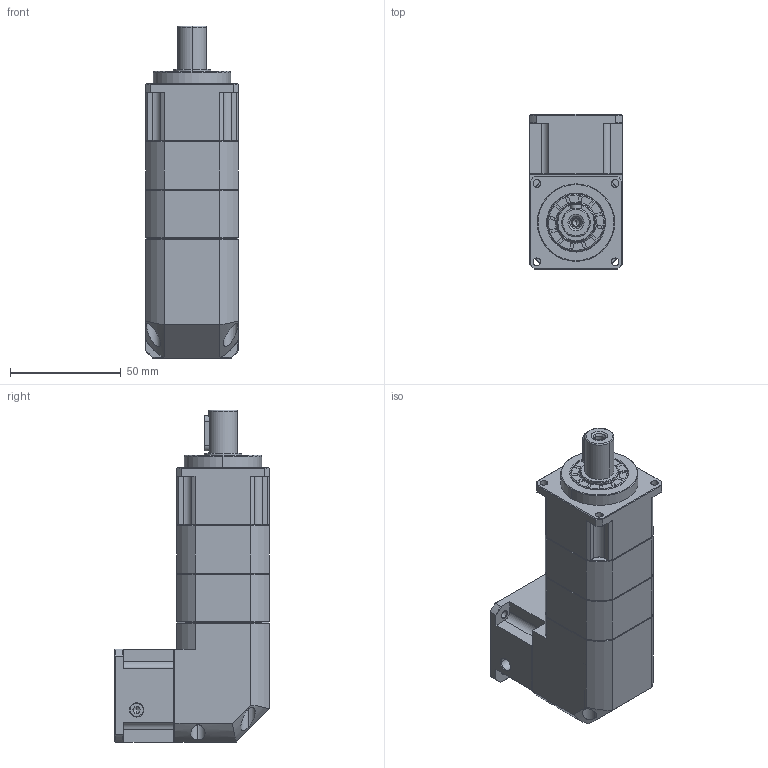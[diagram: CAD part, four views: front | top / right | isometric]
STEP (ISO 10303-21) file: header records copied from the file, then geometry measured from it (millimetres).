
FILE_DESCRIPTION (( 'STEP AP214' ), '1' );
FILE_NAME ('ZPBR042-D13-L3-P1-5-22-31X31-朴3.5.step', '2024-04-11T05:20:02', ( 'Windows 蚚誧' ), ( 'Organization' ), 'SwSTEP 2.0', 'SolidWorks 2016', '' );
FILE_SCHEMA (( 'AUTOMOTIVE_DESIGN' ));
Length unit declared in the file: millimetre
Products named in the file (1): ZPBR042-D13-L3-P1-5-22-31X31-朴3.5
Bounding box: 42 x 70 x 150 mm (x, y, z)
Volume: 219577.9 mm3; surface area: 54624.4 mm2
Topology: 7 solids, 16 shells, 1519 faces, 3887 edges, 2479 vertices
Faces by surface type: plane 673, bspline 337, cone 266, cylinder 241, torus 2
Entity records: 77203 total; most frequent: CARTESIAN_POINT 25657, ORIENTED_EDGE 7730, DIRECTION 6182, EDGE_CURVE 3865, VERTEX_POINT 2479, VECTOR 2298, LINE 2298, AXIS2_PLACEMENT_3D 1942
